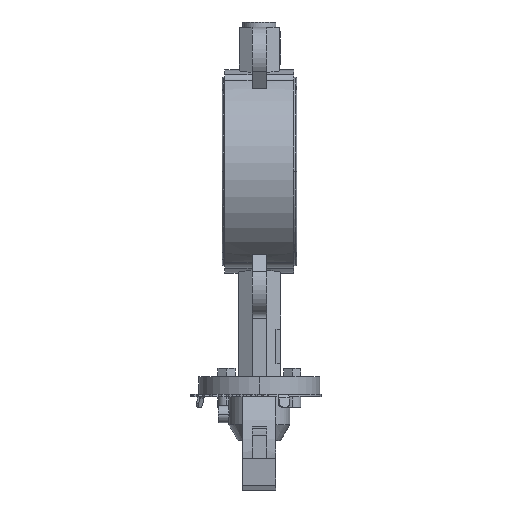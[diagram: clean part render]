
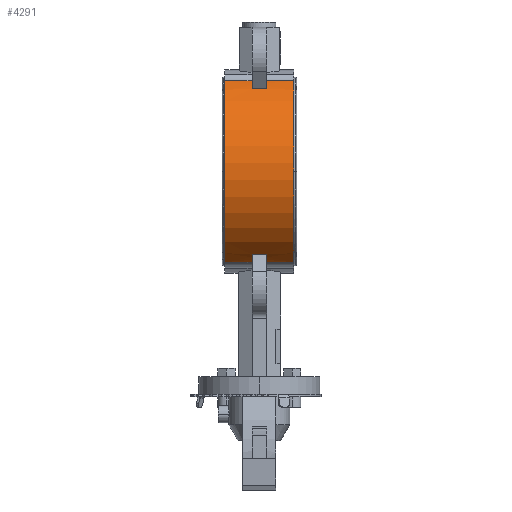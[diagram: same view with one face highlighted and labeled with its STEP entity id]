
A CAD part, left-side view. The second image highlights one B-rep face of the part: STEP entity #4291.
In plain terms, the highlighted cylindrical face has radius 76.5 mm (diameter 153 mm), a partial arc.
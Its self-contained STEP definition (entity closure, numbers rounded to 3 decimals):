
#94=CARTESIAN_POINT('',(0.,26.,0.));
#95=DIRECTION('',(0.,1.,0.));
#96=DIRECTION('',(-0.454,0.,-0.891));
#97=AXIS2_PLACEMENT_3D('',#94,#95,#96);
#99=DIRECTION('',(0.,1.,0.));
#100=VECTOR('',#99,20.5);
#101=CARTESIAN_POINT('',(-34.703,5.5,68.176));
#102=LINE('',#101,#100);
#103=CARTESIAN_POINT('',(0.,5.5,0.));
#104=DIRECTION('',(0.,1.,0.));
#105=DIRECTION('',(-0.577,0.,0.817));
#106=AXIS2_PLACEMENT_3D('',#103,#104,#105);
#108=DIRECTION('',(0.,1.,0.));
#109=VECTOR('',#108,11.);
#110=CARTESIAN_POINT('',(-44.125,-5.5,62.492));
#111=LINE('',#110,#109);
#112=CARTESIAN_POINT('',(0.,-5.5,0.));
#113=DIRECTION('',(0.,1.,0.));
#114=DIRECTION('',(-0.577,0.,0.817));
#115=AXIS2_PLACEMENT_3D('',#112,#113,#114);
#117=DIRECTION('',(0.,1.,0.));
#118=VECTOR('',#117,20.5);
#119=CARTESIAN_POINT('',(-34.703,-26.,68.176));
#120=LINE('',#119,#118);
#121=CARTESIAN_POINT('',(0.,-26.,0.));
#122=DIRECTION('',(0.,-1.,0.));
#123=DIRECTION('',(-0.454,0.,0.891));
#124=AXIS2_PLACEMENT_3D('',#121,#122,#123);
#126=DIRECTION('',(0.,1.,0.));
#127=VECTOR('',#126,20.5);
#128=CARTESIAN_POINT('',(-34.703,-26.,-68.176));
#129=LINE('',#128,#127);
#130=CARTESIAN_POINT('',(0.,-5.5,0.));
#131=DIRECTION('',(0.,1.,0.));
#132=DIRECTION('',(-0.454,0.,-0.891));
#133=AXIS2_PLACEMENT_3D('',#130,#131,#132);
#135=DIRECTION('',(0.,1.,0.));
#136=VECTOR('',#135,11.);
#137=CARTESIAN_POINT('',(-44.125,-5.5,-62.492));
#138=LINE('',#137,#136);
#139=CARTESIAN_POINT('',(0.,5.5,0.));
#140=DIRECTION('',(0.,1.,0.));
#141=DIRECTION('',(-0.454,0.,-0.891));
#142=AXIS2_PLACEMENT_3D('',#139,#140,#141);
#144=DIRECTION('',(0.,1.,0.));
#145=VECTOR('',#144,20.5);
#146=CARTESIAN_POINT('',(-34.703,5.5,-68.176));
#147=LINE('',#146,#145);
#3968=CARTESIAN_POINT('',(-44.125,-5.5,62.492));
#3969=CARTESIAN_POINT('',(-44.125,5.5,62.492));
#3970=VERTEX_POINT('',#3968);
#3971=VERTEX_POINT('',#3969);
#3986=CARTESIAN_POINT('',(-44.125,-5.5,-62.492));
#3987=CARTESIAN_POINT('',(-44.125,5.5,-62.492));
#3988=VERTEX_POINT('',#3986);
#3989=VERTEX_POINT('',#3987);
#4004=CARTESIAN_POINT('',(-34.703,-26.,68.176));
#4006=VERTEX_POINT('',#4004);
#4013=CARTESIAN_POINT('',(-34.703,-26.,-68.176));
#4015=VERTEX_POINT('',#4013);
#4020=CARTESIAN_POINT('',(-34.703,26.,68.176));
#4022=VERTEX_POINT('',#4020);
#4029=CARTESIAN_POINT('',(-34.703,26.,-68.176));
#4031=VERTEX_POINT('',#4029);
#4040=CARTESIAN_POINT('',(-34.703,-5.5,-68.176));
#4041=VERTEX_POINT('',#4040);
#4042=CARTESIAN_POINT('',(-34.703,5.5,-68.176));
#4043=VERTEX_POINT('',#4042);
#4052=CARTESIAN_POINT('',(-34.703,-5.5,68.176));
#4053=VERTEX_POINT('',#4052);
#4054=CARTESIAN_POINT('',(-34.703,5.5,68.176));
#4055=VERTEX_POINT('',#4054);
#4260=CARTESIAN_POINT('',(0.,-26.,0.));
#4261=DIRECTION('',(0.,1.,0.));
#4262=DIRECTION('',(1.,0.,0.));
#4263=AXIS2_PLACEMENT_3D('',#4260,#4261,#4262);
#4264=CYLINDRICAL_SURFACE('',#4263,76.5);
#4266=ORIENTED_EDGE('',*,*,#4265,.T.);
#4268=ORIENTED_EDGE('',*,*,#4267,.F.);
#4270=ORIENTED_EDGE('',*,*,#4269,.F.);
#4272=ORIENTED_EDGE('',*,*,#4271,.F.);
#4274=ORIENTED_EDGE('',*,*,#4273,.T.);
#4276=ORIENTED_EDGE('',*,*,#4275,.F.);
#4278=ORIENTED_EDGE('',*,*,#4277,.T.);
#4280=ORIENTED_EDGE('',*,*,#4279,.T.);
#4282=ORIENTED_EDGE('',*,*,#4281,.T.);
#4284=ORIENTED_EDGE('',*,*,#4283,.T.);
#4286=ORIENTED_EDGE('',*,*,#4285,.F.);
#4288=ORIENTED_EDGE('',*,*,#4287,.T.);
#4289=EDGE_LOOP('',(#4266,#4268,#4270,#4272,#4274,#4276,#4278,#4280,#4282,#4284,
#4286,#4288));
#4290=FACE_OUTER_BOUND('',#4289,.F.);
#4291=ADVANCED_FACE('',(#4290),#4264,.T.);
#98=CIRCLE('',#97,76.5);
#107=CIRCLE('',#106,76.5);
#116=CIRCLE('',#115,76.5);
#125=CIRCLE('',#124,76.5);
#134=CIRCLE('',#133,76.5);
#143=CIRCLE('',#142,76.5);
#4265=EDGE_CURVE('',#4031,#4022,#98,.T.);
#4267=EDGE_CURVE('',#4055,#4022,#102,.T.);
#4269=EDGE_CURVE('',#3971,#4055,#107,.T.);
#4271=EDGE_CURVE('',#3970,#3971,#111,.T.);
#4273=EDGE_CURVE('',#3970,#4053,#116,.T.);
#4275=EDGE_CURVE('',#4006,#4053,#120,.T.);
#4277=EDGE_CURVE('',#4006,#4015,#125,.T.);
#4279=EDGE_CURVE('',#4015,#4041,#129,.T.);
#4281=EDGE_CURVE('',#4041,#3988,#134,.T.);
#4283=EDGE_CURVE('',#3988,#3989,#138,.T.);
#4285=EDGE_CURVE('',#4043,#3989,#143,.T.);
#4287=EDGE_CURVE('',#4043,#4031,#147,.T.);
